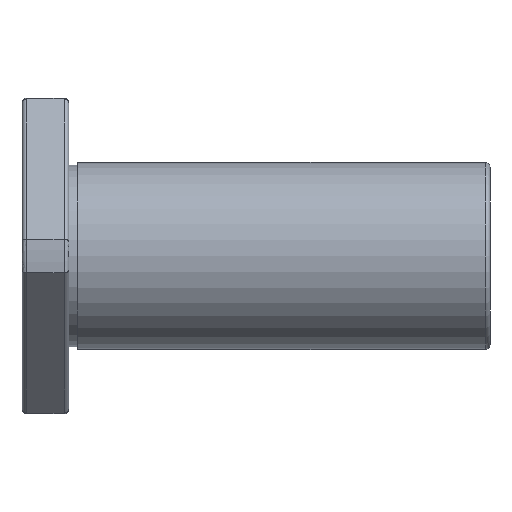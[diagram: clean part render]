
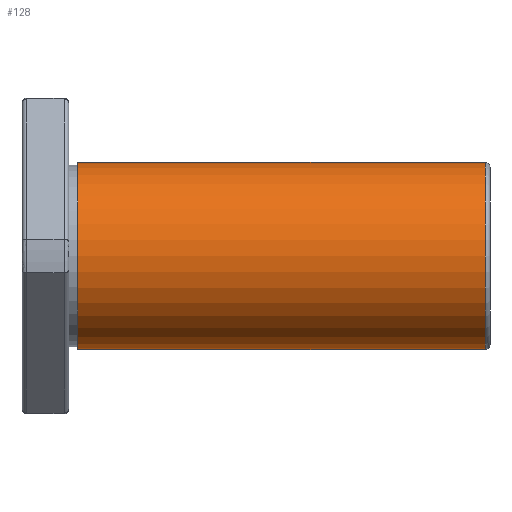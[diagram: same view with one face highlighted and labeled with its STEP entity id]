
A CAD part, front view. The second image highlights one B-rep face of the part: STEP entity #128.
In plain terms, the highlighted cylindrical face has radius 16 mm (diameter 32 mm), a full revolution.
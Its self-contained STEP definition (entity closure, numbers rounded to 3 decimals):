
#128 = ADVANCED_FACE( '', ( #282, #283 ), #284, .T. );
#282 = FACE_OUTER_BOUND( '', #465, .T. );
#283 = FACE_OUTER_BOUND( '', #466, .T. );
#284 = CYLINDRICAL_SURFACE( '', #467, 16. );
#465 = EDGE_LOOP( '', ( #747 ) );
#466 = EDGE_LOOP( '', ( #748 ) );
#467 = AXIS2_PLACEMENT_3D( '', #749, #750, #751 );
#747 = ORIENTED_EDGE( '', *, *, #947, .F. );
#748 = ORIENTED_EDGE( '', *, *, #973, .T. );
#749 = CARTESIAN_POINT( '', ( 24.9, 0., 0. ) );
#750 = DIRECTION( '', ( -1., 0., 0. ) );
#751 = DIRECTION( '', ( 0., 1., 0. ) );
#947 = EDGE_CURVE( '', #1106, #1106, #1107, .F. );
#973 = EDGE_CURVE( '', #1147, #1147, #1148, .F. );
#1106 = VERTEX_POINT( '', #1331 );
#1107 = CIRCLE( '', #1332, 16. );
#1147 = VERTEX_POINT( '', #1413 );
#1148 = CIRCLE( '', #1414, 16. );
#1331 = CARTESIAN_POINT( '', ( 9.5, 0., -16. ) );
#1332 = AXIS2_PLACEMENT_3D( '', #1634, #1635, #1636 );
#1413 = CARTESIAN_POINT( '', ( 79.2, 16., 0. ) );
#1414 = AXIS2_PLACEMENT_3D( '', #1661, #1662, #1663 );
#1634 = CARTESIAN_POINT( '', ( 9.5, 0., 0. ) );
#1635 = DIRECTION( '', ( 1., 0., 0. ) );
#1636 = DIRECTION( '', ( 0., 0., -1. ) );
#1661 = CARTESIAN_POINT( '', ( 79.2, 0., 0. ) );
#1662 = DIRECTION( '', ( 1., 0., 0. ) );
#1663 = DIRECTION( '', ( 0., 0., -1. ) );
